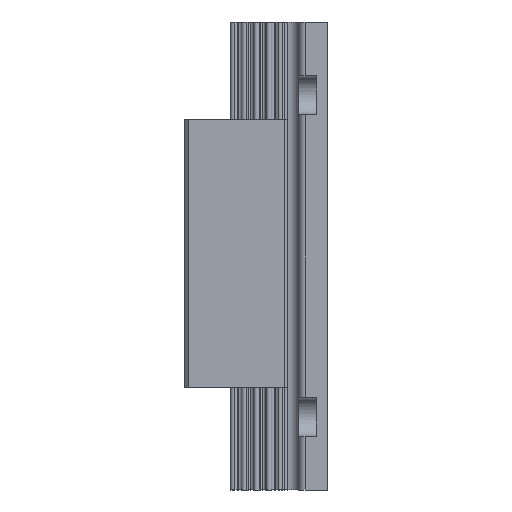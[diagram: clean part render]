
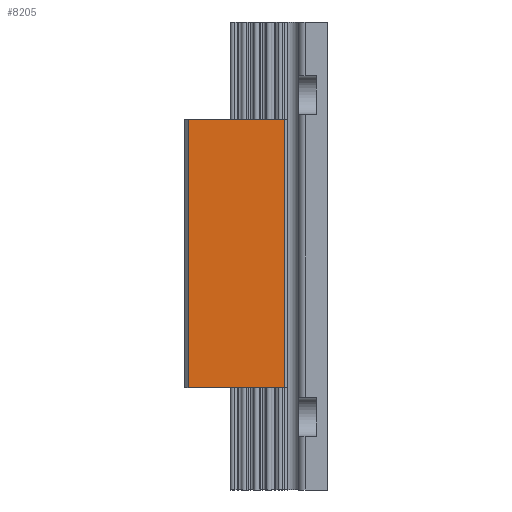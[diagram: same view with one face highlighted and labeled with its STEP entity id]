
A CAD part, left-side view. The second image highlights one B-rep face of the part: STEP entity #8205.
In plain terms, the highlighted planar face has unit normal (-1, 0, 0) as drawn and (1, 0, 0) by its records, which use the part's own axes.
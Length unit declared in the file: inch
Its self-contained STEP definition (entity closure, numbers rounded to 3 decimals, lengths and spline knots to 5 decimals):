
#192 = FACE_OUTER_BOUND ( 'NONE', #7386, .T. ) ;
#469 = ORIENTED_EDGE ( 'NONE', *, *, #7052, .T. ) ;
#520 = CARTESIAN_POINT ( 'NONE',  ( 0.375, -0.143, 0. ) ) ;
#677 = DIRECTION ( 'NONE',  ( 0., 0., 1. ) ) ;
#1728 = EDGE_CURVE ( 'NONE', #8360, #2219, #1921, .T. ) ;
#1791 = VECTOR ( 'NONE', #8895, 39.37008 ) ;
#1921 = LINE ( 'NONE', #5674, #9738 ) ;
#2194 = CARTESIAN_POINT ( 'NONE',  ( 0.375, 0.35167, 0. ) ) ;
#2219 = VERTEX_POINT ( 'NONE', #3441 ) ;
#3117 = VERTEX_POINT ( 'NONE', #6249 ) ;
#3213 = DIRECTION ( 'NONE',  ( 1., 0., 0. ) ) ;
#3441 = CARTESIAN_POINT ( 'NONE',  ( 0.375, -0.143, 1.375 ) ) ;
#3451 = ORIENTED_EDGE ( 'NONE', *, *, #1728, .T. ) ;
#3467 = EDGE_CURVE ( 'NONE', #2219, #3117, #5121, .T. ) ;
#3602 = DIRECTION ( 'NONE',  ( 0., 0., -1. ) ) ;
#3699 = LINE ( 'NONE', #2194, #5662 ) ;
#4120 = LINE ( 'NONE', #5754, #1791 ) ;
#5052 = AXIS2_PLACEMENT_3D ( 'NONE', #6526, #3213, #8654 ) ;
#5121 = LINE ( 'NONE', #520, #5881 ) ;
#5662 = VECTOR ( 'NONE', #677, 39.37008 ) ;
#5674 = CARTESIAN_POINT ( 'NONE',  ( 0.375, 0.35167, 1.375 ) ) ;
#5754 = CARTESIAN_POINT ( 'NONE',  ( 0.375, 0.35167, 0. ) ) ;
#5881 = VECTOR ( 'NONE', #3602, 39.37008 ) ;
#6249 = CARTESIAN_POINT ( 'NONE',  ( 0.375, -0.143, 0. ) ) ;
#6526 = CARTESIAN_POINT ( 'NONE',  ( 0.375, 0.35167, 0. ) ) ;
#6726 = EDGE_CURVE ( 'NONE', #7508, #8360, #3699, .T. ) ;
#7052 = EDGE_CURVE ( 'NONE', #3117, #7508, #4120, .T. ) ;
#7386 = EDGE_LOOP ( 'NONE', ( #469, #7427, #3451, #8098 ) ) ;
#7427 = ORIENTED_EDGE ( 'NONE', *, *, #6726, .T. ) ;
#7508 = VERTEX_POINT ( 'NONE', #9853 ) ;
#8098 = ORIENTED_EDGE ( 'NONE', *, *, #3467, .T. ) ;
#8205 = ADVANCED_FACE ( 'NONE', ( #192 ), #8811, .T. ) ;
#8360 = VERTEX_POINT ( 'NONE', #9736 ) ;
#8654 = DIRECTION ( 'NONE',  ( 0., 1., 0. ) ) ;
#8811 = PLANE ( 'NONE',  #5052 ) ;
#8895 = DIRECTION ( 'NONE',  ( 0., 1., 0. ) ) ;
#9694 = DIRECTION ( 'NONE',  ( 0., -1., 0. ) ) ;
#9736 = CARTESIAN_POINT ( 'NONE',  ( 0.375, 0.35167, 1.375 ) ) ;
#9738 = VECTOR ( 'NONE', #9694, 39.37008 ) ;
#9853 = CARTESIAN_POINT ( 'NONE',  ( 0.375, 0.35167, 0. ) ) ;
